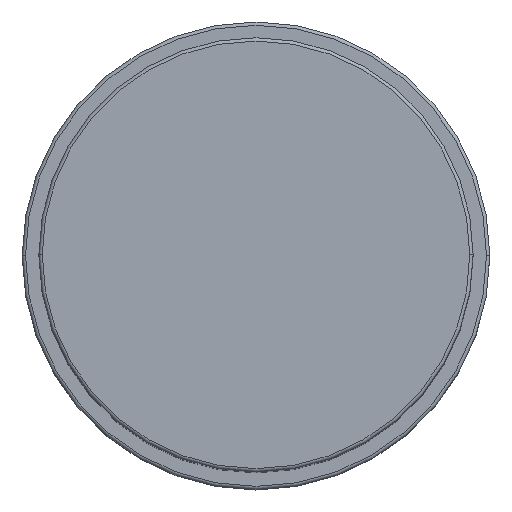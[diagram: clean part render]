
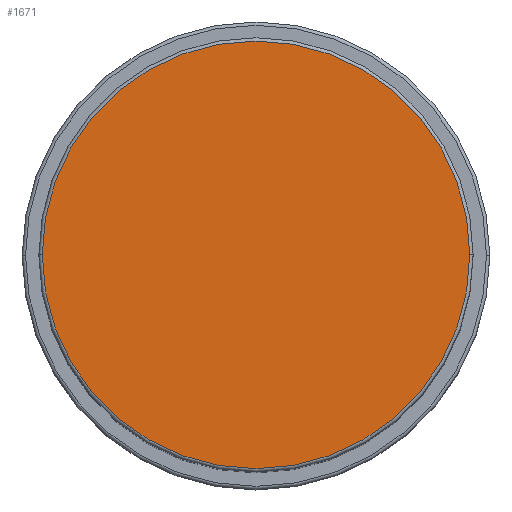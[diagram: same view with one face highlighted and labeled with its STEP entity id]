
A CAD part, top view. The second image highlights one B-rep face of the part: STEP entity #1671.
In plain terms, the highlighted planar face has unit normal (0, 0, 1).
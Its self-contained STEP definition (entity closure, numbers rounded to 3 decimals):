
#456 = CARTESIAN_POINT ( 'NONE',  ( 0., 0., 112. ) ) ;
#491 = DIRECTION ( 'NONE',  ( 0., 0., 1. ) ) ;
#786 = EDGE_LOOP ( 'NONE', ( #3780, #1321 ) ) ;
#945 = AXIS2_PLACEMENT_3D ( 'NONE', #456, #3385, #2527 ) ;
#1066 = CARTESIAN_POINT ( 'NONE',  ( 32., 0., 112. ) ) ;
#1182 = DIRECTION ( 'NONE',  ( 1., 0., 0. ) ) ;
#1285 = CIRCLE ( 'NONE', #2856, 32. ) ;
#1321 = ORIENTED_EDGE ( 'NONE', *, *, #3153, .T. ) ;
#1323 = DIRECTION ( 'NONE',  ( 1., 0., 0. ) ) ;
#1504 = AXIS2_PLACEMENT_3D ( 'NONE', #2181, #491, #1323 ) ;
#1538 = EDGE_CURVE ( 'NONE', #4557, #1781, #4791, .T. ) ;
#1613 = CARTESIAN_POINT ( 'NONE',  ( 0., 0., 112. ) ) ;
#1671 = ADVANCED_FACE ( 'NONE', ( #3532 ), #1759, .T. ) ;
#1759 = PLANE ( 'NONE',  #945 ) ;
#1781 = VERTEX_POINT ( 'NONE', #2230 ) ;
#2181 = CARTESIAN_POINT ( 'NONE',  ( 0., 0., 112. ) ) ;
#2230 = CARTESIAN_POINT ( 'NONE',  ( -32., 0., 112. ) ) ;
#2527 = DIRECTION ( 'NONE',  ( 1., 0., 0. ) ) ;
#2856 = AXIS2_PLACEMENT_3D ( 'NONE', #1613, #3703, #1182 ) ;
#3153 = EDGE_CURVE ( 'NONE', #1781, #4557, #1285, .T. ) ;
#3385 = DIRECTION ( 'NONE',  ( 0., 0., 1. ) ) ;
#3532 = FACE_OUTER_BOUND ( 'NONE', #786, .T. ) ;
#3703 = DIRECTION ( 'NONE',  ( 0., 0., 1. ) ) ;
#3780 = ORIENTED_EDGE ( 'NONE', *, *, #1538, .T. ) ;
#4557 = VERTEX_POINT ( 'NONE', #1066 ) ;
#4791 = CIRCLE ( 'NONE', #1504, 32. ) ;
